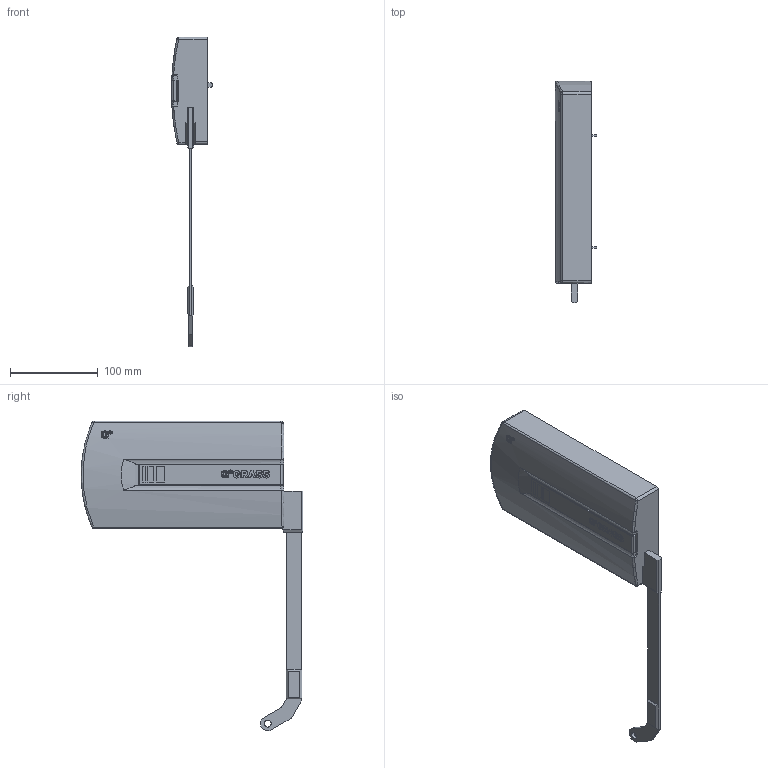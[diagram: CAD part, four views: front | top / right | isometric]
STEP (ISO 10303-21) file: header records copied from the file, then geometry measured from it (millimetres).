
FILE_DESCRIPTION (( 'STEP AP203' ), '1' );
FILE_NAME ('Kinvaro_F-20_Typ2_rechts_D2876007125~a.step', '2012-05-04T06:22:02', ( 'admin' ), ( 'Hewlett-Packard Company' ), 'SwSTEP 2.0', 'SolidWorks 2011', '' );
FILE_SCHEMA (( 'CONFIG_CONTROL_DESIGN' ));
Length unit declared in the file: millimetre
Products named in the file (1): Kinvaro_F-20_Typ2_rechts_D2876007125~a
Bounding box: 46.99 x 252.89 x 353.5 mm (x, y, z)
Volume: 1089587.2 mm3; surface area: 95734.7 mm2
Topology: 1 solids, 1 shells, 417 faces, 1151 edges, 755 vertices
Faces by surface type: cylinder 229, plane 172, torus 8, bspline 4, sphere 4
Entity records: 14118 total; most frequent: CARTESIAN_POINT 3462, ORIENTED_EDGE 2296, DIRECTION 2163, EDGE_CURVE 1148, AXIS2_PLACEMENT_3D 773, VERTEX_POINT 755, LINE 617, VECTOR 617
